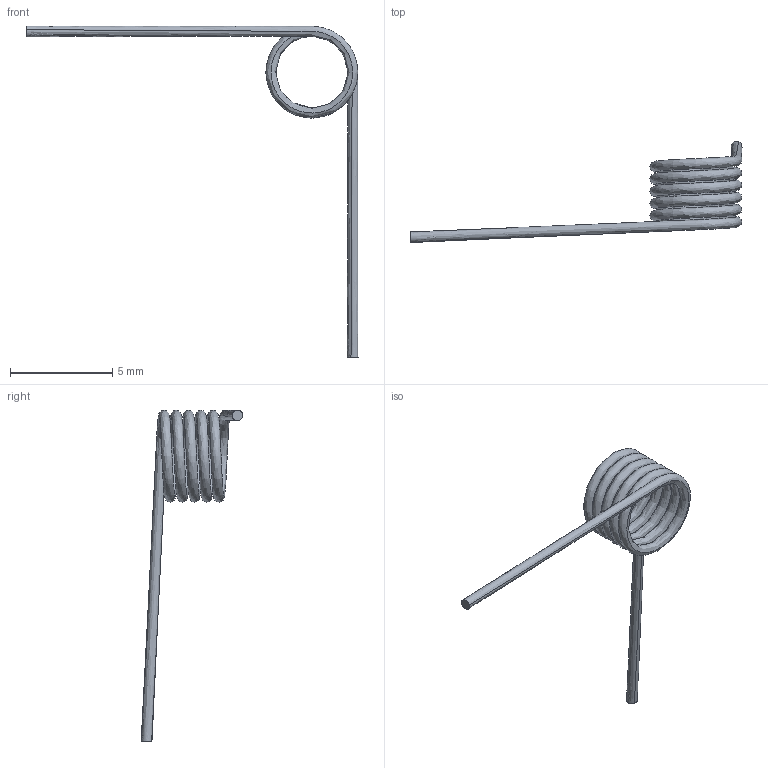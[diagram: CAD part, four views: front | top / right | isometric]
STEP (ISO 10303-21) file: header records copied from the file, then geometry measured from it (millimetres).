
FILE_DESCRIPTION (( 'STEP AP203' ), '1' );
FILE_NAME ('0.5_4.5_5_90.STEP', '2024-07-06T14:30:17', ( '' ), ( '' ), 'SwSTEP 2.0', 'SolidWorks 2020', '' );
FILE_SCHEMA (( 'CONFIG_CONTROL_DESIGN' ));
Length unit declared in the file: millimetre
Products named in the file (1): 0.5_4.5_5_90
Bounding box: 16.26 x 4.98 x 16.26 mm (x, y, z)
Volume: 18.7 mm3; surface area: 149.7 mm2
Topology: 1 solids, 1 shells, 4 faces, 6 edges, 4 vertices
Faces by surface type: bspline 2, plane 2
Entity records: 1281 total; most frequent: CARTESIAN_POINT 1151, ORIENTED_EDGE 12, PERSON_AND_ORGANIZATION 8, DIRECTION 6, EDGE_CURVE 6, DATE_AND_TIME 5, CC_DESIGN_PERSON_AND_ORGANIZATION_ASSIGNMENT 5, COORDINATED_UNIVERSAL_TIME_OFFSET 5
